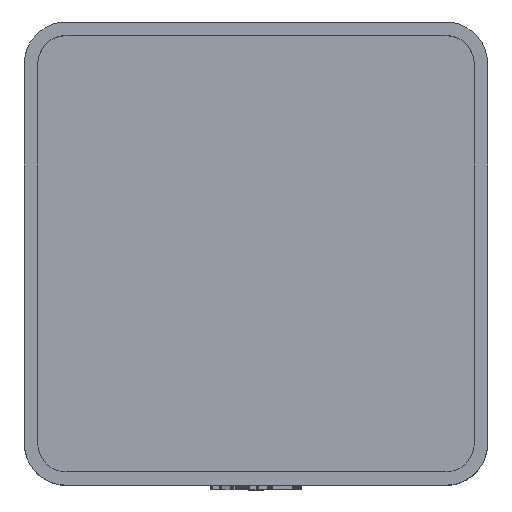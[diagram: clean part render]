
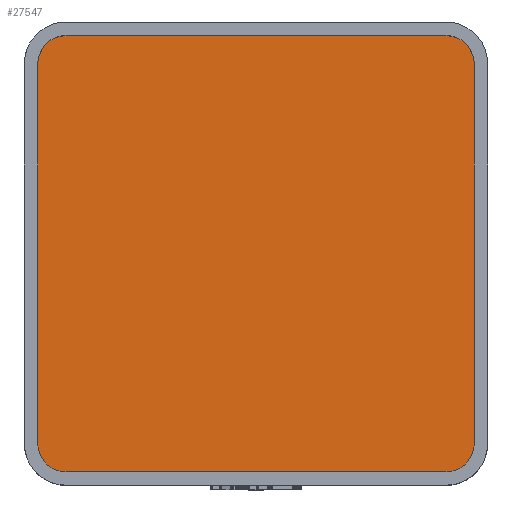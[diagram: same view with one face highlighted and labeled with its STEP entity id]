
A CAD part, top view. The second image highlights one B-rep face of the part: STEP entity #27547.
In plain terms, the highlighted planar face has unit normal (0, 0, 1).
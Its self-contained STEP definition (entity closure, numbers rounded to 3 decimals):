
#1442 = PLANE('',#1443);
#1443 = AXIS2_PLACEMENT_3D('',#1444,#1445,#1446);
#1444 = CARTESIAN_POINT('',(-19.55,-17.,4.75));
#1445 = DIRECTION('',(-1.,0.,0.));
#1446 = DIRECTION('',(0.,1.,0.));
#1474 = CYLINDRICAL_SURFACE('',#1475,2.55);
#1475 = AXIS2_PLACEMENT_3D('',#1476,#1477,#1478);
#1476 = CARTESIAN_POINT('',(-17.,17.,4.75));
#1477 = DIRECTION('',(-0.,-0.,-1.));
#1478 = DIRECTION('',(1.,0.,0.));
#1501 = PLANE('',#1502);
#1502 = AXIS2_PLACEMENT_3D('',#1503,#1504,#1505);
#1503 = CARTESIAN_POINT('',(-17.,19.55,4.75));
#1504 = DIRECTION('',(0.,1.,0.));
#1505 = DIRECTION('',(1.,0.,0.));
#1533 = CYLINDRICAL_SURFACE('',#1534,2.55);
#1534 = AXIS2_PLACEMENT_3D('',#1535,#1536,#1537);
#1535 = CARTESIAN_POINT('',(17.,17.,4.75));
#1536 = DIRECTION('',(-0.,-0.,-1.));
#1537 = DIRECTION('',(1.,0.,0.));
#1560 = PLANE('',#1561);
#1561 = AXIS2_PLACEMENT_3D('',#1562,#1563,#1564);
#1562 = CARTESIAN_POINT('',(19.55,-17.,4.75));
#1563 = DIRECTION('',(-1.,0.,0.));
#1564 = DIRECTION('',(0.,1.,0.));
#1592 = CYLINDRICAL_SURFACE('',#1593,2.55);
#1593 = AXIS2_PLACEMENT_3D('',#1594,#1595,#1596);
#1594 = CARTESIAN_POINT('',(17.,-17.,4.75));
#1595 = DIRECTION('',(-0.,-0.,-1.));
#1596 = DIRECTION('',(1.,0.,0.));
#1619 = PLANE('',#1620);
#1620 = AXIS2_PLACEMENT_3D('',#1621,#1622,#1623);
#1621 = CARTESIAN_POINT('',(-17.,-19.55,4.75));
#1622 = DIRECTION('',(0.,1.,0.));
#1623 = DIRECTION('',(1.,0.,0.));
#1649 = CYLINDRICAL_SURFACE('',#1650,2.55);
#1650 = AXIS2_PLACEMENT_3D('',#1651,#1652,#1653);
#1651 = CARTESIAN_POINT('',(-17.,-17.,4.75));
#1652 = DIRECTION('',(-0.,-0.,-1.));
#1653 = DIRECTION('',(1.,0.,0.));
#10573 = EDGE_CURVE('',#10574,#10576,#10578,.T.);
#10574 = VERTEX_POINT('',#10575);
#10575 = CARTESIAN_POINT('',(-19.55,-17.,4.75));
#10576 = VERTEX_POINT('',#10577);
#10577 = CARTESIAN_POINT('',(-19.55,17.,4.75));
#10578 = SURFACE_CURVE('',#10579,(#10583,#10590),.PCURVE_S1.);
#10579 = LINE('',#10580,#10581);
#10580 = CARTESIAN_POINT('',(-19.55,0.,4.75));
#10581 = VECTOR('',#10582,1.);
#10582 = DIRECTION('',(0.,1.,0.));
#10583 = PCURVE('',#1442,#10584);
#10584 = DEFINITIONAL_REPRESENTATION('',(#10585),#10589);
#10585 = LINE('',#10586,#10587);
#10586 = CARTESIAN_POINT('',(17.,0.));
#10587 = VECTOR('',#10588,1.);
#10588 = DIRECTION('',(1.,0.));
#10589 = ( GEOMETRIC_REPRESENTATION_CONTEXT(2) 
PARAMETRIC_REPRESENTATION_CONTEXT() REPRESENTATION_CONTEXT('2D SPACE',''
  ) );
#10590 = PCURVE('',#10591,#10596);
#10591 = PLANE('',#10592);
#10592 = AXIS2_PLACEMENT_3D('',#10593,#10594,#10595);
#10593 = CARTESIAN_POINT('',(0.,0.,4.75
    ));
#10594 = DIRECTION('',(0.,0.,1.));
#10595 = DIRECTION('',(1.,0.,-0.));
#10596 = DEFINITIONAL_REPRESENTATION('',(#10597),#10601);
#10597 = LINE('',#10598,#10599);
#10598 = CARTESIAN_POINT('',(-19.55,0.));
#10599 = VECTOR('',#10600,1.);
#10600 = DIRECTION('',(0.,1.));
#10601 = ( GEOMETRIC_REPRESENTATION_CONTEXT(2) 
PARAMETRIC_REPRESENTATION_CONTEXT() REPRESENTATION_CONTEXT('2D SPACE',''
  ) );
#10649 = EDGE_CURVE('',#10574,#10650,#10652,.T.);
#10650 = VERTEX_POINT('',#10651);
#10651 = CARTESIAN_POINT('',(-17.,-19.55,4.75));
#10652 = SURFACE_CURVE('',#10653,(#10658,#10665),.PCURVE_S1.);
#10653 = CIRCLE('',#10654,2.55);
#10654 = AXIS2_PLACEMENT_3D('',#10655,#10656,#10657);
#10655 = CARTESIAN_POINT('',(-17.,-17.,4.75));
#10656 = DIRECTION('',(0.,0.,1.));
#10657 = DIRECTION('',(1.,0.,0.));
#10658 = PCURVE('',#1649,#10659);
#10659 = DEFINITIONAL_REPRESENTATION('',(#10660),#10664);
#10660 = LINE('',#10661,#10662);
#10661 = CARTESIAN_POINT('',(-0.,0.));
#10662 = VECTOR('',#10663,1.);
#10663 = DIRECTION('',(-1.,0.));
#10664 = ( GEOMETRIC_REPRESENTATION_CONTEXT(2) 
PARAMETRIC_REPRESENTATION_CONTEXT() REPRESENTATION_CONTEXT('2D SPACE',''
  ) );
#10665 = PCURVE('',#10591,#10666);
#10666 = DEFINITIONAL_REPRESENTATION('',(#10667),#10671);
#10667 = CIRCLE('',#10668,2.55);
#10668 = AXIS2_PLACEMENT_2D('',#10669,#10670);
#10669 = CARTESIAN_POINT('',(-17.,-17.));
#10670 = DIRECTION('',(1.,0.));
#10671 = ( GEOMETRIC_REPRESENTATION_CONTEXT(2) 
PARAMETRIC_REPRESENTATION_CONTEXT() REPRESENTATION_CONTEXT('2D SPACE',''
  ) );
#10699 = EDGE_CURVE('',#10650,#10700,#10702,.T.);
#10700 = VERTEX_POINT('',#10701);
#10701 = CARTESIAN_POINT('',(17.,-19.55,4.75));
#10702 = SURFACE_CURVE('',#10703,(#10707,#10714),.PCURVE_S1.);
#10703 = LINE('',#10704,#10705);
#10704 = CARTESIAN_POINT('',(0.,-19.55,4.75));
#10705 = VECTOR('',#10706,1.);
#10706 = DIRECTION('',(1.,0.,0.));
#10707 = PCURVE('',#1619,#10708);
#10708 = DEFINITIONAL_REPRESENTATION('',(#10709),#10713);
#10709 = LINE('',#10710,#10711);
#10710 = CARTESIAN_POINT('',(17.,0.));
#10711 = VECTOR('',#10712,1.);
#10712 = DIRECTION('',(1.,0.));
#10713 = ( GEOMETRIC_REPRESENTATION_CONTEXT(2) 
PARAMETRIC_REPRESENTATION_CONTEXT() REPRESENTATION_CONTEXT('2D SPACE',''
  ) );
#10714 = PCURVE('',#10591,#10715);
#10715 = DEFINITIONAL_REPRESENTATION('',(#10716),#10720);
#10716 = LINE('',#10717,#10718);
#10717 = CARTESIAN_POINT('',(0.,-19.55));
#10718 = VECTOR('',#10719,1.);
#10719 = DIRECTION('',(1.,0.));
#10720 = ( GEOMETRIC_REPRESENTATION_CONTEXT(2) 
PARAMETRIC_REPRESENTATION_CONTEXT() REPRESENTATION_CONTEXT('2D SPACE',''
  ) );
#10748 = EDGE_CURVE('',#10700,#10749,#10751,.T.);
#10749 = VERTEX_POINT('',#10750);
#10750 = CARTESIAN_POINT('',(19.55,-17.,4.75));
#10751 = SURFACE_CURVE('',#10752,(#10757,#10764),.PCURVE_S1.);
#10752 = CIRCLE('',#10753,2.55);
#10753 = AXIS2_PLACEMENT_3D('',#10754,#10755,#10756);
#10754 = CARTESIAN_POINT('',(17.,-17.,4.75));
#10755 = DIRECTION('',(0.,0.,1.));
#10756 = DIRECTION('',(1.,0.,0.));
#10757 = PCURVE('',#1592,#10758);
#10758 = DEFINITIONAL_REPRESENTATION('',(#10759),#10763);
#10759 = LINE('',#10760,#10761);
#10760 = CARTESIAN_POINT('',(-0.,0.));
#10761 = VECTOR('',#10762,1.);
#10762 = DIRECTION('',(-1.,0.));
#10763 = ( GEOMETRIC_REPRESENTATION_CONTEXT(2) 
PARAMETRIC_REPRESENTATION_CONTEXT() REPRESENTATION_CONTEXT('2D SPACE',''
  ) );
#10764 = PCURVE('',#10591,#10765);
#10765 = DEFINITIONAL_REPRESENTATION('',(#10766),#10770);
#10766 = CIRCLE('',#10767,2.55);
#10767 = AXIS2_PLACEMENT_2D('',#10768,#10769);
#10768 = CARTESIAN_POINT('',(17.,-17.));
#10769 = DIRECTION('',(1.,0.));
#10770 = ( GEOMETRIC_REPRESENTATION_CONTEXT(2) 
PARAMETRIC_REPRESENTATION_CONTEXT() REPRESENTATION_CONTEXT('2D SPACE',''
  ) );
#10798 = EDGE_CURVE('',#10749,#10799,#10801,.T.);
#10799 = VERTEX_POINT('',#10800);
#10800 = CARTESIAN_POINT('',(19.55,17.,4.75));
#10801 = SURFACE_CURVE('',#10802,(#10806,#10813),.PCURVE_S1.);
#10802 = LINE('',#10803,#10804);
#10803 = CARTESIAN_POINT('',(19.55,0.,4.75));
#10804 = VECTOR('',#10805,1.);
#10805 = DIRECTION('',(0.,1.,0.));
#10806 = PCURVE('',#1560,#10807);
#10807 = DEFINITIONAL_REPRESENTATION('',(#10808),#10812);
#10808 = LINE('',#10809,#10810);
#10809 = CARTESIAN_POINT('',(17.,0.));
#10810 = VECTOR('',#10811,1.);
#10811 = DIRECTION('',(1.,0.));
#10812 = ( GEOMETRIC_REPRESENTATION_CONTEXT(2) 
PARAMETRIC_REPRESENTATION_CONTEXT() REPRESENTATION_CONTEXT('2D SPACE',''
  ) );
#10813 = PCURVE('',#10591,#10814);
#10814 = DEFINITIONAL_REPRESENTATION('',(#10815),#10819);
#10815 = LINE('',#10816,#10817);
#10816 = CARTESIAN_POINT('',(19.55,0.));
#10817 = VECTOR('',#10818,1.);
#10818 = DIRECTION('',(0.,1.));
#10819 = ( GEOMETRIC_REPRESENTATION_CONTEXT(2) 
PARAMETRIC_REPRESENTATION_CONTEXT() REPRESENTATION_CONTEXT('2D SPACE',''
  ) );
#10847 = EDGE_CURVE('',#10799,#10848,#10850,.T.);
#10848 = VERTEX_POINT('',#10849);
#10849 = CARTESIAN_POINT('',(17.,19.55,4.75));
#10850 = SURFACE_CURVE('',#10851,(#10856,#10863),.PCURVE_S1.);
#10851 = CIRCLE('',#10852,2.55);
#10852 = AXIS2_PLACEMENT_3D('',#10853,#10854,#10855);
#10853 = CARTESIAN_POINT('',(17.,17.,4.75));
#10854 = DIRECTION('',(0.,0.,1.));
#10855 = DIRECTION('',(1.,0.,0.));
#10856 = PCURVE('',#1533,#10857);
#10857 = DEFINITIONAL_REPRESENTATION('',(#10858),#10862);
#10858 = LINE('',#10859,#10860);
#10859 = CARTESIAN_POINT('',(-0.,0.));
#10860 = VECTOR('',#10861,1.);
#10861 = DIRECTION('',(-1.,0.));
#10862 = ( GEOMETRIC_REPRESENTATION_CONTEXT(2) 
PARAMETRIC_REPRESENTATION_CONTEXT() REPRESENTATION_CONTEXT('2D SPACE',''
  ) );
#10863 = PCURVE('',#10591,#10864);
#10864 = DEFINITIONAL_REPRESENTATION('',(#10865),#10869);
#10865 = CIRCLE('',#10866,2.55);
#10866 = AXIS2_PLACEMENT_2D('',#10867,#10868);
#10867 = CARTESIAN_POINT('',(17.,17.));
#10868 = DIRECTION('',(1.,0.));
#10869 = ( GEOMETRIC_REPRESENTATION_CONTEXT(2) 
PARAMETRIC_REPRESENTATION_CONTEXT() REPRESENTATION_CONTEXT('2D SPACE',''
  ) );
#10897 = EDGE_CURVE('',#10898,#10848,#10900,.T.);
#10898 = VERTEX_POINT('',#10899);
#10899 = CARTESIAN_POINT('',(-17.,19.55,4.75));
#10900 = SURFACE_CURVE('',#10901,(#10905,#10912),.PCURVE_S1.);
#10901 = LINE('',#10902,#10903);
#10902 = CARTESIAN_POINT('',(0.,19.55,4.75));
#10903 = VECTOR('',#10904,1.);
#10904 = DIRECTION('',(1.,0.,0.));
#10905 = PCURVE('',#1501,#10906);
#10906 = DEFINITIONAL_REPRESENTATION('',(#10907),#10911);
#10907 = LINE('',#10908,#10909);
#10908 = CARTESIAN_POINT('',(17.,0.));
#10909 = VECTOR('',#10910,1.);
#10910 = DIRECTION('',(1.,0.));
#10911 = ( GEOMETRIC_REPRESENTATION_CONTEXT(2) 
PARAMETRIC_REPRESENTATION_CONTEXT() REPRESENTATION_CONTEXT('2D SPACE',''
  ) );
#10912 = PCURVE('',#10591,#10913);
#10913 = DEFINITIONAL_REPRESENTATION('',(#10914),#10918);
#10914 = LINE('',#10915,#10916);
#10915 = CARTESIAN_POINT('',(0.,19.55));
#10916 = VECTOR('',#10917,1.);
#10917 = DIRECTION('',(1.,0.));
#10918 = ( GEOMETRIC_REPRESENTATION_CONTEXT(2) 
PARAMETRIC_REPRESENTATION_CONTEXT() REPRESENTATION_CONTEXT('2D SPACE',''
  ) );
#10946 = EDGE_CURVE('',#10898,#10576,#10947,.T.);
#10947 = SURFACE_CURVE('',#10948,(#10953,#10960),.PCURVE_S1.);
#10948 = CIRCLE('',#10949,2.55);
#10949 = AXIS2_PLACEMENT_3D('',#10950,#10951,#10952);
#10950 = CARTESIAN_POINT('',(-17.,17.,4.75));
#10951 = DIRECTION('',(0.,0.,1.));
#10952 = DIRECTION('',(1.,0.,0.));
#10953 = PCURVE('',#1474,#10954);
#10954 = DEFINITIONAL_REPRESENTATION('',(#10955),#10959);
#10955 = LINE('',#10956,#10957);
#10956 = CARTESIAN_POINT('',(-0.,0.));
#10957 = VECTOR('',#10958,1.);
#10958 = DIRECTION('',(-1.,0.));
#10959 = ( GEOMETRIC_REPRESENTATION_CONTEXT(2) 
PARAMETRIC_REPRESENTATION_CONTEXT() REPRESENTATION_CONTEXT('2D SPACE',''
  ) );
#10960 = PCURVE('',#10591,#10961);
#10961 = DEFINITIONAL_REPRESENTATION('',(#10962),#10966);
#10962 = CIRCLE('',#10963,2.55);
#10963 = AXIS2_PLACEMENT_2D('',#10964,#10965);
#10964 = CARTESIAN_POINT('',(-17.,17.));
#10965 = DIRECTION('',(1.,0.));
#10966 = ( GEOMETRIC_REPRESENTATION_CONTEXT(2) 
PARAMETRIC_REPRESENTATION_CONTEXT() REPRESENTATION_CONTEXT('2D SPACE',''
  ) );
#27547 = ADVANCED_FACE('',(#27548),#10591,.T.);
#27548 = FACE_BOUND('',#27549,.T.);
#27549 = EDGE_LOOP('',(#27550,#27551,#27552,#27553,#27554,#27555,#27556,
    #27557));
#27550 = ORIENTED_EDGE('',*,*,#10573,.F.);
#27551 = ORIENTED_EDGE('',*,*,#10649,.T.);
#27552 = ORIENTED_EDGE('',*,*,#10699,.T.);
#27553 = ORIENTED_EDGE('',*,*,#10748,.T.);
#27554 = ORIENTED_EDGE('',*,*,#10798,.T.);
#27555 = ORIENTED_EDGE('',*,*,#10847,.T.);
#27556 = ORIENTED_EDGE('',*,*,#10897,.F.);
#27557 = ORIENTED_EDGE('',*,*,#10946,.T.);
